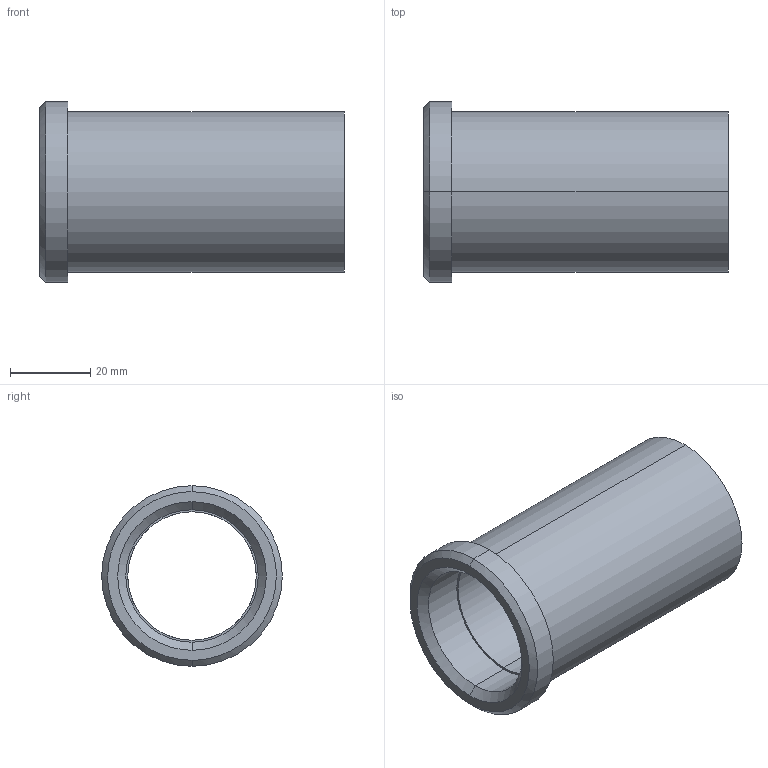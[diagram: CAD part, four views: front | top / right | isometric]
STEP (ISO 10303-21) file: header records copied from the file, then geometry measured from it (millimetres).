
FILE_DESCRIPTION(('CATIA V5 STEP Exchange'),'2;1');
FILE_NAME('C:\Users\Utente\Desktop\IO LAVORO\3D X SITO CF\X SITO\PLASTICA\353\353-32X76.stp','2021-05-12T18:54:29+00:00',('none'),('none'),'CATIA Version 5 Release 20 GA (IN-10)','CATIA V5 STEP AP203','none');
FILE_SCHEMA(('CONFIG_CONTROL_DESIGN'));
Length unit declared in the file: millimetre
Products named in the file (1): 353-32X76
Bounding box: 76 x 45 x 45 mm (x, y, z)
Volume: 35645.6 mm3; surface area: 18582.9 mm2
Topology: 1 solids, 1 shells, 18 faces, 58 edges, 44 vertices
Faces by surface type: cylinder 8, plane 4, cone 4, torus 2
Entity records: 840 total; most frequent: CARTESIAN_POINT 289, ORIENTED_EDGE 116, DIRECTION 82, EDGE_CURVE 58, AXIS2_PLACEMENT_3D 53, VERTEX_POINT 44, CIRCLE 34, EDGE_LOOP 22
